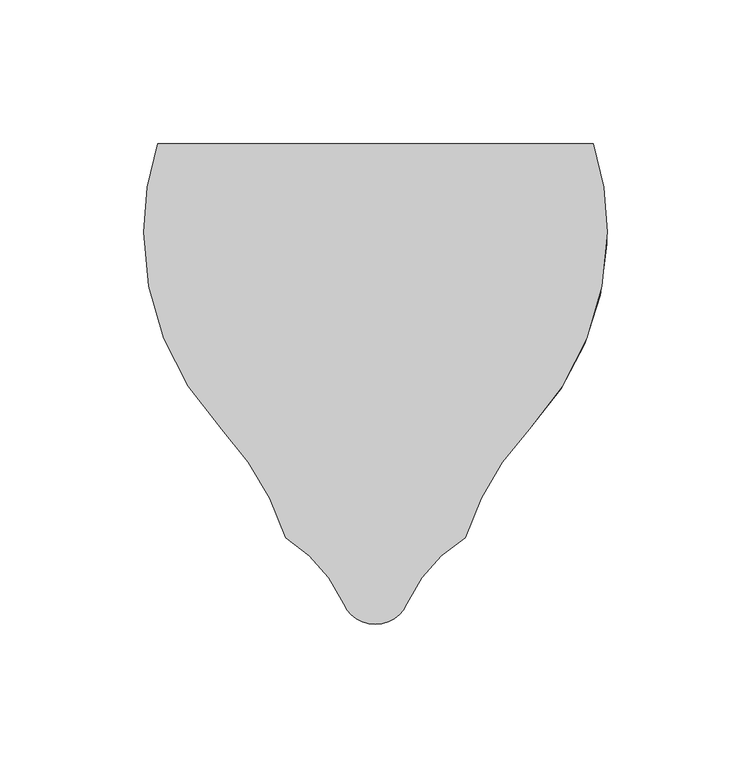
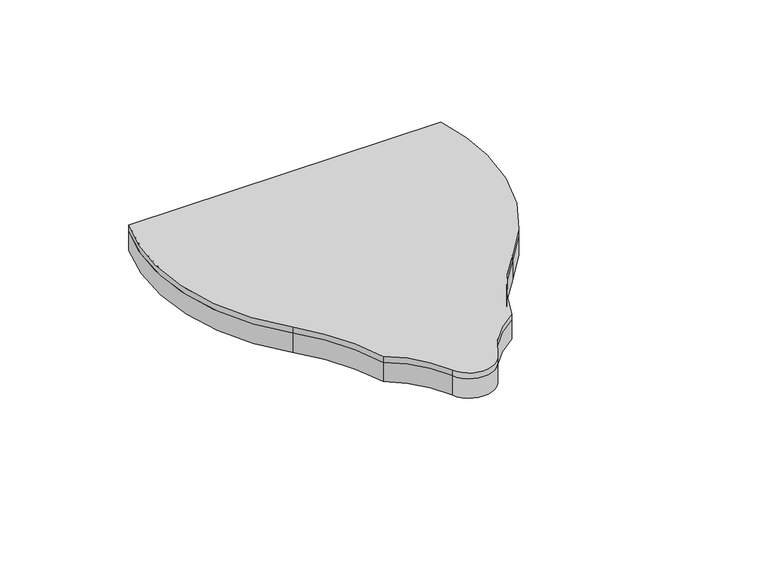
"""IFC4 building model written with IfcOpenShell, lengths in millimetres: proxy geometry, FilzFelt_Fish_Block : Fish Block."""

from ifc_helpers import new_model, si_unit, frame, origin, place, context, project, spatial, polyline, circle_curve, source, transform, mapped, element, save
from ifc_brep_helpers import plane_surface, cylinder_surface, revolved_surface, advanced_brep


def specialty_equipment_8d9a8f15(model_context):
    return source(origin(), model_context, "Body", "AdvancedBrep", [
        advanced_brep(
        [(-53.5486457, -68.6120133, 10.0210937), (-80.7142226, 0.0, 10.0210937), (-75.8353849, 30.890169, 10.0210937), (75.8353849, 30.890169, 10.0210937), (53.5486457, -68.6120133, 10.0210937), (31.2619065, -106.3338576, 10.0210937), (11.0103348, -129.4133496, 10.0210937), (-11.0103348, -129.4133496, 10.0210937), (-31.2619065, -106.3338576, 10.0210937), (53.5486457, -68.6120133, 12.9976563), (80.7142226, 0.0, 12.9976563), (75.8353849, 30.890169, 12.9976563), (-75.8353849, 30.890169, 12.9976563), (-80.7142226, 0.0, 12.9976563), (-53.5486457, -68.6120133, 12.9976563), (-31.2619065, -106.3338576, 12.9976563), (-11.0103348, -129.4133496, 12.9976563), (0.0, -136.5838795, 12.9976563), (11.0103348, -129.4133496, 12.9976563), (31.2619065, -106.3338576, 12.9976563)],
        [
            (0, 1, circle_curve(frame((19.5151403, 0.0, 10.0210937), z_axis=(0.0, 0.0, -1.0), x_axis=(-1.0, 0.0, 0.0)), 100.2293629)),
            (1, 2, circle_curve(frame((19.5151403, 0.0, 10.0210937), z_axis=(0.0, 0.0, -1.0), x_axis=(-1.0, 0.0, 0.0)), 100.2293629)),
            (2, 3),
            (3, 4, circle_curve(frame((-19.5151403, 0.0, 10.0210937), z_axis=(0.0, 0.0, -1.0), x_axis=(-1.0, 0.0, 0.0)), 100.2293629)),
            (4, 5, circle_curve(frame((126.6124317, -137.2240266, 10.0210937), z_axis=(0.0, 0.0, 1.0), x_axis=(-1.0, 0.0, 0.0)), 100.2293629)),
            (5, 6, circle_curve(frame((57.9263497, -150.1559416, 10.0210937), z_axis=(0.0, 0.0, 1.0), x_axis=(-1.0, 0.0, 0.0)), 51.2968574)),
            (6, 7, circle_curve(frame((0.0, -124.5454408, 10.0210937), z_axis=(0.0, 0.0, -1.0), x_axis=(-1.0, 0.0, 0.0)), 12.0384388)),
            (7, 8, circle_curve(frame((-57.9263497, -150.1559416, 10.0210937), z_axis=(0.0, 0.0, 1.0), x_axis=(-1.0, 0.0, 0.0)), 51.2968574)),
            (8, 0, circle_curve(frame((-126.6124317, -137.2240266, 10.0210937), z_axis=(0.0, 0.0, 1.0), x_axis=(-1.0, 0.0, 0.0)), 100.2293629)),
            (9, 10, circle_curve(frame((-19.5151403, 0.0, 12.9976563), z_axis=(0.0, 0.0, 1.0), x_axis=(-1.0, 0.0, 0.0)), 100.2293629)),
            (10, 11, circle_curve(frame((-19.5151403, 0.0, 12.9976563), z_axis=(0.0, 0.0, 1.0), x_axis=(-1.0, 0.0, 0.0)), 100.2293629)),
            (11, 12),
            (12, 13, circle_curve(frame((19.5151403, 0.0, 12.9976563), z_axis=(0.0, 0.0, 1.0), x_axis=(-1.0, 0.0, 0.0)), 100.2293629)),
            (13, 14, circle_curve(frame((19.5151403, 0.0, 12.9976563), z_axis=(0.0, 0.0, 1.0), x_axis=(-1.0, 0.0, 0.0)), 100.2293629)),
            (14, 15, circle_curve(frame((-126.6124317, -137.2240266, 12.9976563), z_axis=(0.0, 0.0, -1.0), x_axis=(-1.0, 0.0, 0.0)), 100.2293629)),
            (15, 16, circle_curve(frame((-57.9263497, -150.1559416, 12.9976563), z_axis=(0.0, 0.0, -1.0), x_axis=(-1.0, 0.0, 0.0)), 51.2968574)),
            (16, 17, circle_curve(frame((0.0, -124.5454408, 12.9976563), z_axis=(0.0, 0.0, 1.0), x_axis=(-1.0, 0.0, 0.0)), 12.0384388)),
            (17, 18, circle_curve(frame((0.0, -124.5454408, 12.9976563), z_axis=(0.0, 0.0, 1.0), x_axis=(-1.0, 0.0, 0.0)), 12.0384388)),
            (18, 19, circle_curve(frame((57.9263497, -150.1559416, 12.9976563), z_axis=(0.0, 0.0, -1.0), x_axis=(-1.0, 0.0, 0.0)), 51.2968574)),
            (19, 9, circle_curve(frame((126.6124317, -137.2240266, 12.9976563), z_axis=(0.0, 0.0, -1.0), x_axis=(-1.0, 0.0, 0.0)), 100.2293629)),
            (3, 11),
            (9, 4),
            (12, 2),
            (0, 14),
            (8, 15),
            (7, 16),
            (6, 18),
            (5, 19),
        ],
        [
            plane_surface(frame((0.0, 0.0, 10.0210937), z_axis=(0.0, 0.0, -1.0), x_axis=(0.0, 1.0, 0.0))),
            plane_surface(frame((0.0, 0.0, 12.9976563), z_axis=(0.0, 0.0, 1.0), x_axis=(0.0, 1.0, 0.0))),
            cylinder_surface(frame((-19.5151403, 0.0, 10.0210937), z_axis=(0.0, 0.0, -1.0), x_axis=(-1.0, 0.0, 0.0)), 100.2293629),
            cylinder_surface(frame((19.5151403, 0.0, 10.0210937), z_axis=(0.0, 0.0, -1.0), x_axis=(-1.0, 0.0, 0.0)), 100.2293629),
            revolved_surface(polyline([(-226.84179460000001, -137.2240266, 12.9976563), (-226.84179460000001, -137.2240266, 10.0210937)]), (-126.6124317, -137.2240266, 10.0210937), (0.0, 0.0, 1.0)),
            revolved_surface(polyline([(-109.2232071, -150.1559416, 12.9976563), (-109.2232071, -150.1559416, 10.0210937)]), (-57.9263497, -150.1559416, 10.0210937), (0.0, 0.0, 1.0)),
            cylinder_surface(frame((0.0, -124.5454408, 10.0210937), z_axis=(0.0, 0.0, -1.0), x_axis=(-1.0, 0.0, 0.0)), 12.0384388),
            revolved_surface(polyline([(6.629492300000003, -150.1559416, 12.9976563), (6.629492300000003, -150.1559416, 10.0210937)]), (57.9263497, -150.1559416, 10.0210937), (0.0, 0.0, 1.0)),
            revolved_surface(polyline([(26.383068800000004, -137.2240266, 12.9976563), (26.383068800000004, -137.2240266, 10.0210937)]), (126.6124317, -137.2240266, 10.0210937), (0.0, 0.0, 1.0)),
            plane_surface(frame((112.4642226, 30.890169, 12.9976562), z_axis=(0.0, 1.0, 0.0), x_axis=(0.0, 0.0, -1.0))),
        ],
        [
            (0, [[1, 2, 3, 4, 5, 6, 7, 8, 9]]),
            (1, [[10, 11, 12, 13, 14, 15, 16, 17, 18, 19, 20]]),
            (2, [[-4, 21, -11, -10, 22]]),
            (3, [[-14, -13, 23, -2, -1, 24]]),
            (4, [[25, -15, -24, -9]]),
            (5, [[26, -16, -25, -8]]),
            (6, [[27, -18, -17, -26, -7]]),
            (7, [[28, -19, -27, -6]]),
            (8, [[-22, -20, -28, -5]]),
            (9, [[-23, -12, -21, -3]]),
        ],
    ),
        advanced_brep(
        [(-53.5486457, -68.6120133, 0.0), (-80.7142226, 0.0, 0.0), (-75.8353849, 30.890169, 0.0), (75.8353849, 30.890169, 0.0), (80.7142226, 0.0, 0.0), (53.5486457, -68.6120133, 0.0), (31.2619065, -106.3338576, 0.0), (11.0103348, -129.4133496, 0.0), (0.0, -136.5838795, 0.0), (-11.0103348, -129.4133496, 0.0), (-31.2619065, -106.3338576, 0.0), (53.5486457, -68.6120133, 10.0210937), (75.8353849, 30.890169, 10.0210937), (-75.8353849, 30.890169, 10.0210937), (-80.7142226, 0.0, 10.0210937), (-53.5486457, -68.6120133, 10.0210937), (-31.2619065, -106.3338576, 10.0210937), (-11.0103348, -129.4133496, 10.0210937), (11.0103348, -129.4133496, 10.0210937), (31.2619065, -106.3338576, 10.0210937)],
        [
            (0, 1, circle_curve(frame((19.5151403, 0.0, 0.0), z_axis=(0.0, 0.0, -1.0), x_axis=(-1.0, 0.0, 0.0)), 100.2293629)),
            (1, 2, circle_curve(frame((19.5151403, 0.0, 0.0), z_axis=(0.0, 0.0, -1.0), x_axis=(-1.0, 0.0, 0.0)), 100.2293629)),
            (2, 3),
            (3, 4, circle_curve(frame((-19.5151403, 0.0, 0.0), z_axis=(0.0, 0.0, -1.0), x_axis=(-1.0, 0.0, 0.0)), 100.2293629)),
            (4, 5, circle_curve(frame((-19.5151403, 0.0, 0.0), z_axis=(0.0, 0.0, -1.0), x_axis=(-1.0, 0.0, 0.0)), 100.2293629)),
            (5, 6, circle_curve(frame((126.6124317, -137.2240266, 0.0), z_axis=(0.0, 0.0, 1.0), x_axis=(-1.0, 0.0, 0.0)), 100.2293629)),
            (6, 7, circle_curve(frame((57.9263497, -150.1559416, 0.0), z_axis=(0.0, 0.0, 1.0), x_axis=(-1.0, 0.0, 0.0)), 51.2968574)),
            (7, 8, circle_curve(frame((0.0, -124.5454408, 0.0), z_axis=(0.0, 0.0, -1.0), x_axis=(-1.0, 0.0, 0.0)), 12.0384388)),
            (8, 9, circle_curve(frame((0.0, -124.5454408, 0.0), z_axis=(0.0, 0.0, -1.0), x_axis=(-1.0, 0.0, 0.0)), 12.0384388)),
            (9, 10, circle_curve(frame((-57.9263497, -150.1559416, 0.0), z_axis=(0.0, 0.0, 1.0), x_axis=(-1.0, 0.0, 0.0)), 51.2968574)),
            (10, 0, circle_curve(frame((-126.6124317, -137.2240266, 0.0), z_axis=(0.0, 0.0, 1.0), x_axis=(-1.0, 0.0, 0.0)), 100.2293629)),
            (11, 12, circle_curve(frame((-19.5151403, 0.0, 10.0210937), z_axis=(0.0, 0.0, 1.0), x_axis=(-1.0, 0.0, 0.0)), 100.2293629)),
            (12, 13),
            (13, 14, circle_curve(frame((19.5151403, 0.0, 10.0210937), z_axis=(0.0, 0.0, 1.0), x_axis=(-1.0, 0.0, 0.0)), 100.2293629)),
            (14, 15, circle_curve(frame((19.5151403, 0.0, 10.0210937), z_axis=(0.0, 0.0, 1.0), x_axis=(-1.0, 0.0, 0.0)), 100.2293629)),
            (15, 16, circle_curve(frame((-126.6124317, -137.2240266, 10.0210937), z_axis=(0.0, 0.0, -1.0), x_axis=(-1.0, 0.0, 0.0)), 100.2293629)),
            (16, 17, circle_curve(frame((-57.9263497, -150.1559416, 10.0210937), z_axis=(0.0, 0.0, -1.0), x_axis=(-1.0, 0.0, 0.0)), 51.2968574)),
            (17, 18, circle_curve(frame((0.0, -124.5454408, 10.0210937), z_axis=(0.0, 0.0, 1.0), x_axis=(-1.0, 0.0, 0.0)), 12.0384388)),
            (18, 19, circle_curve(frame((57.9263497, -150.1559416, 10.0210937), z_axis=(0.0, 0.0, -1.0), x_axis=(-1.0, 0.0, 0.0)), 51.2968574)),
            (19, 11, circle_curve(frame((126.6124317, -137.2240266, 10.0210937), z_axis=(0.0, 0.0, -1.0), x_axis=(-1.0, 0.0, 0.0)), 100.2293629)),
            (13, 2),
            (0, 15),
            (10, 16),
            (9, 17),
            (7, 18),
            (6, 19),
            (5, 11),
            (3, 12),
        ],
        [
            plane_surface(frame((0.0, 0.0, 0.0), z_axis=(0.0, 0.0, -1.0), x_axis=(0.0, 1.0, 0.0))),
            plane_surface(frame((0.0, 0.0, 10.0210937), z_axis=(0.0, 0.0, 1.0), x_axis=(0.0, 1.0, 0.0))),
            cylinder_surface(frame((19.5151403, 0.0, 0.0), z_axis=(0.0, 0.0, -1.0), x_axis=(-1.0, 0.0, 0.0)), 100.2293629),
            revolved_surface(polyline([(-226.84179460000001, -137.2240266, 10.0210937), (-226.84179460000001, -137.2240266, 0.0)]), (-126.6124317, -137.2240266, 0.0), (0.0, 0.0, 1.0)),
            revolved_surface(polyline([(-109.2232071, -150.1559416, 10.0210937), (-109.2232071, -150.1559416, 0.0)]), (-57.9263497, -150.1559416, 0.0), (0.0, 0.0, 1.0)),
            cylinder_surface(frame((0.0, -124.5454408, 0.0), z_axis=(0.0, 0.0, -1.0), x_axis=(-1.0, 0.0, 0.0)), 12.0384388),
            revolved_surface(polyline([(6.629492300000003, -150.1559416, 10.0210937), (6.629492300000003, -150.1559416, 0.0)]), (57.9263497, -150.1559416, 0.0), (0.0, 0.0, 1.0)),
            revolved_surface(polyline([(26.383068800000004, -137.2240266, 10.0210937), (26.383068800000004, -137.2240266, 0.0)]), (126.6124317, -137.2240266, 0.0), (0.0, 0.0, 1.0)),
            cylinder_surface(frame((-19.5151403, 0.0, 0.0), z_axis=(0.0, 0.0, -1.0), x_axis=(-1.0, 0.0, 0.0)), 100.2293629),
            plane_surface(frame((112.4642226, 30.890169, 12.9976562), z_axis=(0.0, 1.0, 0.0), x_axis=(0.0, 0.0, -1.0))),
        ],
        [
            (0, [[1, 2, 3, 4, 5, 6, 7, 8, 9, 10, 11]]),
            (1, [[12, 13, 14, 15, 16, 17, 18, 19, 20]]),
            (2, [[-15, -14, 21, -2, -1, 22]]),
            (3, [[23, -16, -22, -11]]),
            (4, [[24, -17, -23, -10]]),
            (5, [[-24, -9, -8, 25, -18]]),
            (6, [[26, -19, -25, -7]]),
            (7, [[27, -20, -26, -6]]),
            (8, [[-5, -4, 28, -12, -27]]),
            (9, [[-21, -13, -28, -3]]),
        ],
    ),
    ])


if __name__ == "__main__":
    model = new_model("IFC4")
    model_context = context("Model", 3, world=origin())
    ifc_project = project(units=[si_unit("LENGTHUNIT", "METRE", prefix="MILLI")], contexts=[model_context])
    site = spatial("IfcSite", under=ifc_project)
    building = spatial("IfcBuilding", under=site)
    placement = place(None, origin())
    specialty_equipment_shape = specialty_equipment_8d9a8f15(model_context)
    element("IfcBuildingElementProxy", 1, Name="FilzFelt_Fish_Block : Fish Block", ObjectType="FilzFelt_Fish_Block : Fish Block", at=placement, inside=building, context=model_context, shape_type="MappedRepresentation", body=[
        mapped(specialty_equipment_shape, transform((0.0, 0.0, 0.0), x_axis=(1.0, 0.0, 0.0), y_axis=(0.0, 1.0, 0.0), z_axis=(0.0, 0.0, 1.0))),
    ])
    save(model, "model.ifc")
